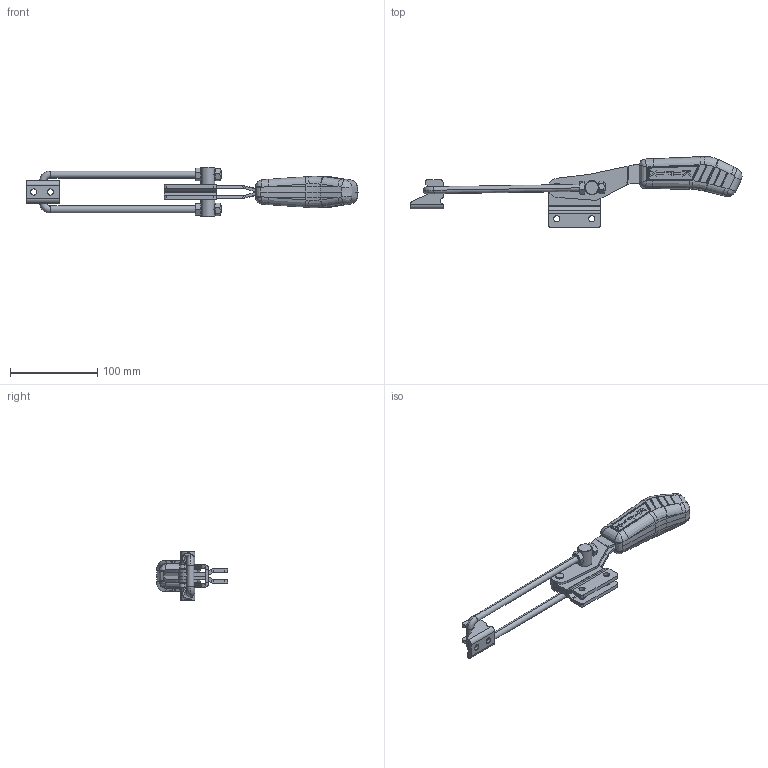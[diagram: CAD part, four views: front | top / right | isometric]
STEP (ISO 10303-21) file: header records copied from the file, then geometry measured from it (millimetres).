
FILE_DESCRIPTION (( 'STEP AP203' ), '1' );
FILE_NAME ('KF-943 RL.STEP', '2014-08-21T16:35:52', ( 'Ricardo' ), ( '' ), 'SwSTEP 2.0', 'SolidWorks 2013', '' );
FILE_SCHEMA (( 'CONFIG_CONTROL_DESIGN' ));
Length unit declared in the file: millimetre
Products named in the file (12): 02.11040_Esquerda; 06.50049; 01.10058_Direita; KF-943 RL; 01.10058_Esquerda; 16.20101; 03.20056; 15.10030; 11.50017; 11.50002; 02.11040_Direita; 07.60003
Assembly tree (13 placements, depth 2):
  KF-943 RL
    02.11040_Direita
    02.11040_Esquerda
    01.10058_Direita
    01.10058_Esquerda
    16.20101
    03.20056
    15.10030
    11.50017  x2
    11.50002  x2
    07.60003
    06.50049
Bounding box: 380.73 x 81.48 x 56.5 mm (x, y, z)
Volume: 192018.1 mm3; surface area: 76207.2 mm2
Topology: 13 solids, 13 shells, 687 faces, 1725 edges, 1068 vertices
Faces by surface type: plane 245, cylinder 194, bspline 153, sphere 48, cone 38, torus 9
Entity records: 24670 total; most frequent: CARTESIAN_POINT 9326, ORIENTED_EDGE 3242, DIRECTION 2460, EDGE_CURVE 1621, VERTEX_POINT 1008, AXIS2_PLACEMENT_3D 952, EDGE_LOOP 707, FACE_OUTER_BOUND 653
